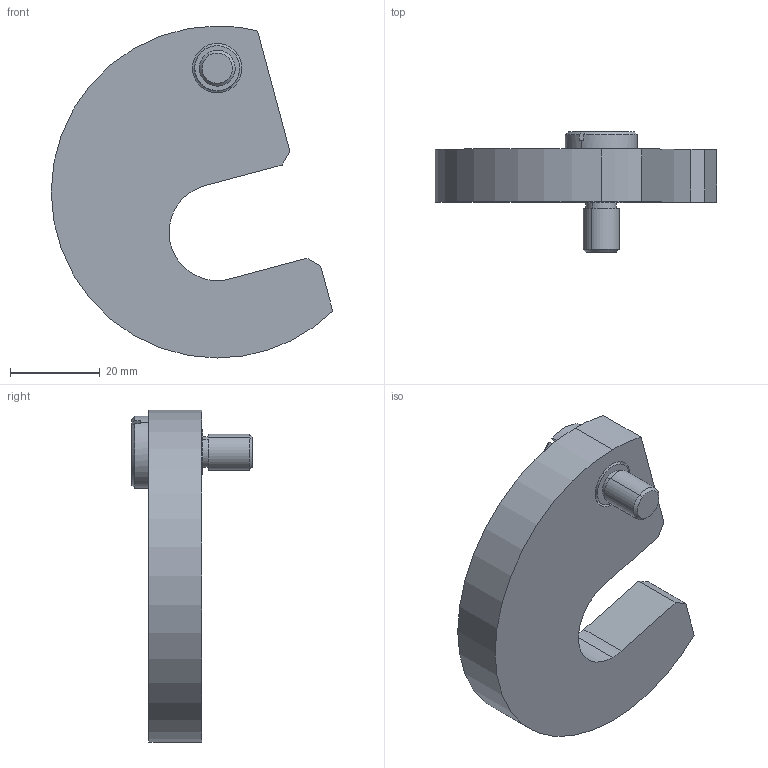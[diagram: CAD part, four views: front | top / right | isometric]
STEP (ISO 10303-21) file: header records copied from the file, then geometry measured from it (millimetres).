
FILE_DESCRIPTION (( 'STEP AP203' ), '1' );
FILE_NAME ('3662.W020.step', '2009-12-03T10:14:52', ( 'Wixroyd' ), ( 'Wixroyd' ), 'SwSTEP 2.0', 'SolidWorks 2009', '' );
FILE_SCHEMA (( 'CONFIG_CONTROL_DESIGN' ));
Length unit declared in the file: millimetre
Products named in the file (3): Part1_3662W020; Part2_3670W008; 3662.W020
Assembly tree (2 placements, depth 2):
  3662.W020
    Part1_3662W020
    Part2_3670W008
Bounding box: 62.75 x 26.8 x 74 mm (x, y, z)
Volume: 34148.8 mm3; surface area: 10282 mm2
Topology: 2 solids, 2 shells, 38 faces, 89 edges, 58 vertices
Faces by surface type: plane 17, cylinder 15, cone 4, torus 2
Entity records: 1416 total; most frequent: DIRECTION 213, CARTESIAN_POINT 202, ORIENTED_EDGE 178, EDGE_CURVE 89, AXIS2_PLACEMENT_3D 85, VERTEX_POINT 58, EDGE_LOOP 43, VECTOR 43
